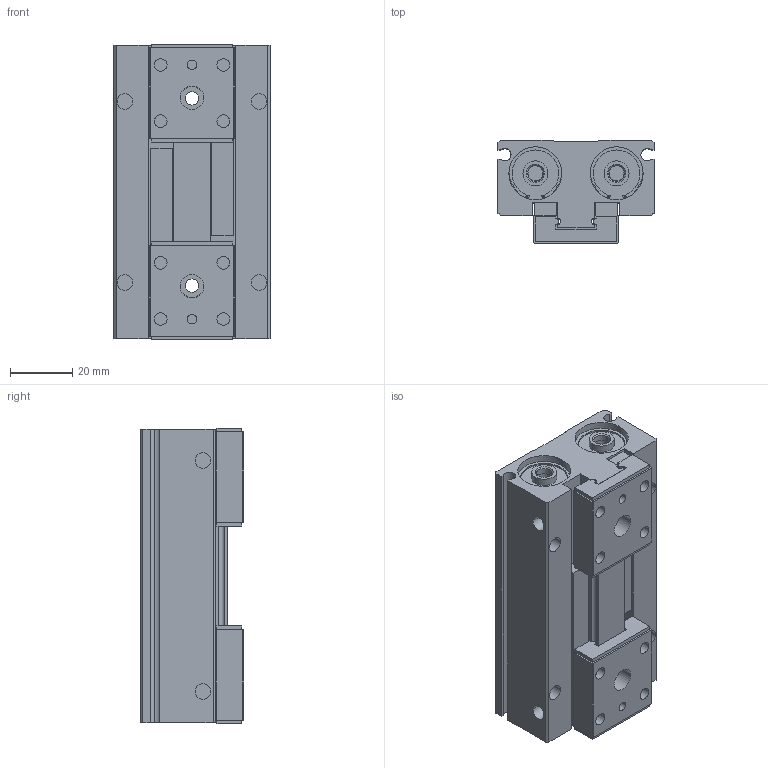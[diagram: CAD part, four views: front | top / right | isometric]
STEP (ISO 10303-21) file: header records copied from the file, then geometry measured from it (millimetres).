
FILE_DESCRIPTION (( 'STEP AP214' ), '1' );
FILE_NAME ('MHF2-16D1.step.step', '2022-12-07T05:32:41', ( '' ), ( '' ), 'SwSTEP 2.0', 'SolidWorks 2022', '' );
FILE_SCHEMA (( 'AUTOMOTIVE_DESIGN' ));
Length unit declared in the file: millimetre
Products named in the file (3): MHF2-16D1.step_MHFBody_16D1; MHF2-16D1.step_MHFFinger_16D1; MHF2-16D1.step
Assembly tree (3 placements, depth 2):
  MHF2-16D1.step
    MHF2-16D1.step_MHFBody_16D1
    MHF2-16D1.step_MHFFinger_16D1  x2
Bounding box: 50 x 33 x 94.8 mm (x, y, z)
Volume: 117208.7 mm3; surface area: 31022.6 mm2
Topology: 3 solids, 3 shells, 304 faces, 758 edges, 496 vertices
Faces by surface type: plane 182, cylinder 114, cone 8
Entity records: 7056 total; most frequent: DIRECTION 1251, CARTESIAN_POINT 1163, ORIENTED_EDGE 1122, EDGE_CURVE 561, AXIS2_PLACEMENT_3D 456, VERTEX_POINT 368, LINE 339, VECTOR 339
